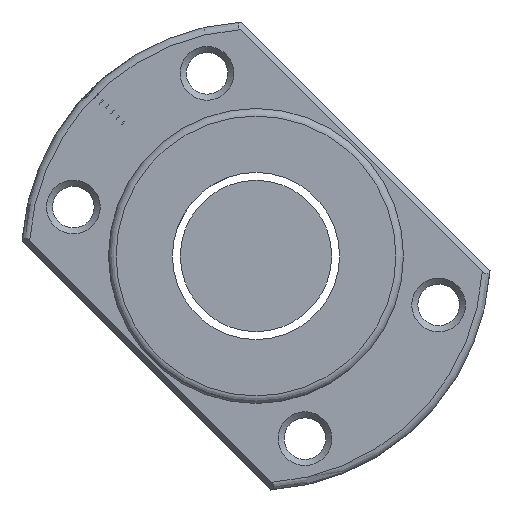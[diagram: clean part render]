
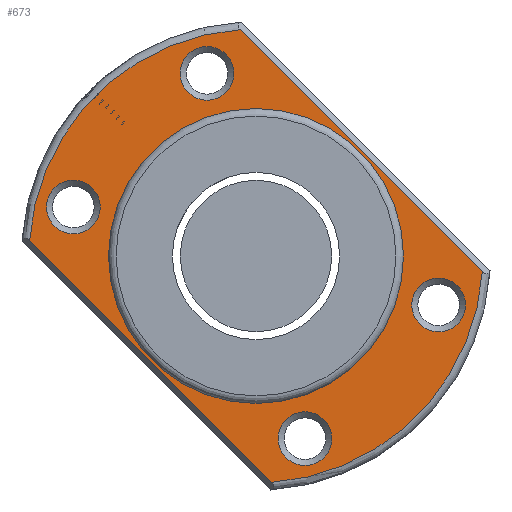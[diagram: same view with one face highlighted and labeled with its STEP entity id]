
A CAD part, left-side view. The second image highlights one B-rep face of the part: STEP entity #673.
In plain terms, the highlighted planar face has unit normal (-1, 0, 0).
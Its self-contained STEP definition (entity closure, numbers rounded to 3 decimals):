
#13 = CARTESIAN_POINT ( 'NONE',  ( -39., 2.069, 29.929 ) ) ;
#54 = VECTOR ( 'NONE', #1163, 1000. ) ;
#68 = VERTEX_POINT ( 'NONE', #13 ) ;
#123 = DIRECTION ( 'NONE',  ( 0., 0.707, 0.707 ) ) ;
#139 = VERTEX_POINT ( 'NONE', #1299 ) ;
#163 = VECTOR ( 'NONE', #123, 1000. ) ;
#205 = AXIS2_PLACEMENT_3D ( 'NONE', #1810, #2504, #2518 ) ;
#212 = DIRECTION ( 'NONE',  ( 0., 0., 1. ) ) ;
#233 = CARTESIAN_POINT ( 'NONE',  ( -39., 29.43, 1.57 ) ) ;
#234 = VERTEX_POINT ( 'NONE', #2826 ) ;
#238 = FACE_BOUND ( 'NONE', #1900, .T. ) ;
#308 = CIRCLE ( 'NONE', #205, 3.55 ) ;
#311 = DIRECTION ( 'NONE',  ( 1., 0., 0. ) ) ;
#314 = EDGE_CURVE ( 'NONE', #68, #614, #401, .T. ) ;
#401 = CIRCLE ( 'NONE', #2310, 30. ) ;
#406 = AXIS2_PLACEMENT_3D ( 'NONE', #822, #1763, #475 ) ;
#407 = EDGE_LOOP ( 'NONE', ( #2153 ) ) ;
#448 = ORIENTED_EDGE ( 'NONE', *, *, #3025, .T. ) ;
#454 = EDGE_CURVE ( 'NONE', #614, #1456, #2336, .T. ) ;
#475 = DIRECTION ( 'NONE',  ( 0., 0., 1. ) ) ;
#556 = CIRCLE ( 'NONE', #2072, 3.55 ) ;
#576 = CARTESIAN_POINT ( 'NONE',  ( -39., 6.47, 27.698 ) ) ;
#590 = DIRECTION ( 'NONE',  ( 1., 0., 0. ) ) ;
#614 = VERTEX_POINT ( 'NONE', #1408 ) ;
#673 = ADVANCED_FACE ( 'NONE', ( #1878, #1644, #238, #2588, #2357, #1430 ), #2340, .T. ) ;
#692 = VERTEX_POINT ( 'NONE', #1896 ) ;
#711 = CARTESIAN_POINT ( 'NONE',  ( -39., -2.069, -29.929 ) ) ;
#772 = DIRECTION ( 'NONE',  ( 1., 0., 0. ) ) ;
#794 = DIRECTION ( 'NONE',  ( 0., 0., 1. ) ) ;
#822 = CARTESIAN_POINT ( 'NONE',  ( -39., 0., 0. ) ) ;
#839 = AXIS2_PLACEMENT_3D ( 'NONE', #1027, #590, #794 ) ;
#847 = EDGE_CURVE ( 'NONE', #2676, #2676, #556, .T. ) ;
#884 = CIRCLE ( 'NONE', #406, 30. ) ;
#971 = CARTESIAN_POINT ( 'NONE',  ( -39., 6.47, 24.148 ) ) ;
#1013 = DIRECTION ( 'NONE',  ( 0., 0., -1. ) ) ;
#1027 = CARTESIAN_POINT ( 'NONE',  ( -39., -6.47, -24.148 ) ) ;
#1038 = EDGE_CURVE ( 'NONE', #1456, #692, #884, .T. ) ;
#1153 = DIRECTION ( 'NONE',  ( -1., 0., 0. ) ) ;
#1163 = DIRECTION ( 'NONE',  ( 0., -0.707, -0.707 ) ) ;
#1188 = ORIENTED_EDGE ( 'NONE', *, *, #2857, .T. ) ;
#1235 = DIRECTION ( 'NONE',  ( -1., 0., 0. ) ) ;
#1258 = ORIENTED_EDGE ( 'NONE', *, *, #847, .T. ) ;
#1260 = EDGE_CURVE ( 'NONE', #2459, #2459, #308, .T. ) ;
#1284 = CARTESIAN_POINT ( 'NONE',  ( -39., -24.148, -2.92 ) ) ;
#1288 = ORIENTED_EDGE ( 'NONE', *, *, #314, .T. ) ;
#1299 = CARTESIAN_POINT ( 'NONE',  ( -39., 24.148, 10.02 ) ) ;
#1408 = CARTESIAN_POINT ( 'NONE',  ( -39., 29.929, 2.069 ) ) ;
#1430 = FACE_OUTER_BOUND ( 'NONE', #2969, .T. ) ;
#1456 = VERTEX_POINT ( 'NONE', #711 ) ;
#1522 = ORIENTED_EDGE ( 'NONE', *, *, #454, .T. ) ;
#1531 = CARTESIAN_POINT ( 'NONE',  ( -39., 0., -19.5 ) ) ;
#1644 = FACE_BOUND ( 'NONE', #1706, .T. ) ;
#1706 = EDGE_LOOP ( 'NONE', ( #448 ) ) ;
#1722 = AXIS2_PLACEMENT_3D ( 'NONE', #2407, #1235, #2624 ) ;
#1763 = DIRECTION ( 'NONE',  ( -1., 0., 0. ) ) ;
#1778 = CIRCLE ( 'NONE', #839, 3.55 ) ;
#1810 = CARTESIAN_POINT ( 'NONE',  ( -39., -24.148, -6.47 ) ) ;
#1831 = ORIENTED_EDGE ( 'NONE', *, *, #2524, .T. ) ;
#1878 = FACE_BOUND ( 'NONE', #2972, .T. ) ;
#1896 = CARTESIAN_POINT ( 'NONE',  ( -39., -29.929, -2.069 ) ) ;
#1900 = EDGE_LOOP ( 'NONE', ( #2283 ) ) ;
#2014 = DIRECTION ( 'NONE',  ( 1., 0., 0. ) ) ;
#2072 = AXIS2_PLACEMENT_3D ( 'NONE', #971, #772, #2847 ) ;
#2153 = ORIENTED_EDGE ( 'NONE', *, *, #2444, .T. ) ;
#2230 = CARTESIAN_POINT ( 'NONE',  ( -39., 1.57, 29.43 ) ) ;
#2235 = ORIENTED_EDGE ( 'NONE', *, *, #1038, .T. ) ;
#2245 = DIRECTION ( 'NONE',  ( 0., 0., 1. ) ) ;
#2283 = ORIENTED_EDGE ( 'NONE', *, *, #1260, .T. ) ;
#2310 = AXIS2_PLACEMENT_3D ( 'NONE', #2573, #1153, #212 ) ;
#2316 = CIRCLE ( 'NONE', #2957, 19.5 ) ;
#2336 = LINE ( 'NONE', #233, #54 ) ;
#2340 = PLANE ( 'NONE',  #1722 ) ;
#2357 = FACE_BOUND ( 'NONE', #407, .T. ) ;
#2407 = CARTESIAN_POINT ( 'NONE',  ( -39., 31., 0. ) ) ;
#2444 = EDGE_CURVE ( 'NONE', #2647, #2647, #2316, .T. ) ;
#2458 = LINE ( 'NONE', #2230, #163 ) ;
#2459 = VERTEX_POINT ( 'NONE', #1284 ) ;
#2467 = CIRCLE ( 'NONE', #2709, 3.55 ) ;
#2469 = EDGE_LOOP ( 'NONE', ( #1258 ) ) ;
#2475 = CARTESIAN_POINT ( 'NONE',  ( -39., 24.148, 6.47 ) ) ;
#2504 = DIRECTION ( 'NONE',  ( 1., 0., 0. ) ) ;
#2518 = DIRECTION ( 'NONE',  ( 0., 0., 1. ) ) ;
#2524 = EDGE_CURVE ( 'NONE', #692, #68, #2458, .T. ) ;
#2573 = CARTESIAN_POINT ( 'NONE',  ( -39., 0., 0. ) ) ;
#2588 = FACE_BOUND ( 'NONE', #2469, .T. ) ;
#2624 = DIRECTION ( 'NONE',  ( 0., 0., 1. ) ) ;
#2647 = VERTEX_POINT ( 'NONE', #1531 ) ;
#2676 = VERTEX_POINT ( 'NONE', #576 ) ;
#2709 = AXIS2_PLACEMENT_3D ( 'NONE', #2475, #2014, #2245 ) ;
#2826 = CARTESIAN_POINT ( 'NONE',  ( -39., -6.47, -20.598 ) ) ;
#2847 = DIRECTION ( 'NONE',  ( 0., 0., 1. ) ) ;
#2857 = EDGE_CURVE ( 'NONE', #139, #139, #2467, .T. ) ;
#2917 = CARTESIAN_POINT ( 'NONE',  ( -39., 0., 0. ) ) ;
#2957 = AXIS2_PLACEMENT_3D ( 'NONE', #2917, #311, #1013 ) ;
#2969 = EDGE_LOOP ( 'NONE', ( #1522, #2235, #1831, #1288 ) ) ;
#2972 = EDGE_LOOP ( 'NONE', ( #1188 ) ) ;
#3025 = EDGE_CURVE ( 'NONE', #234, #234, #1778, .T. ) ;
